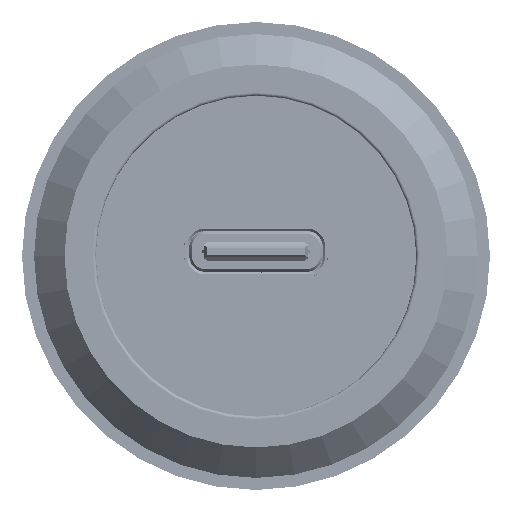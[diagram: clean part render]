
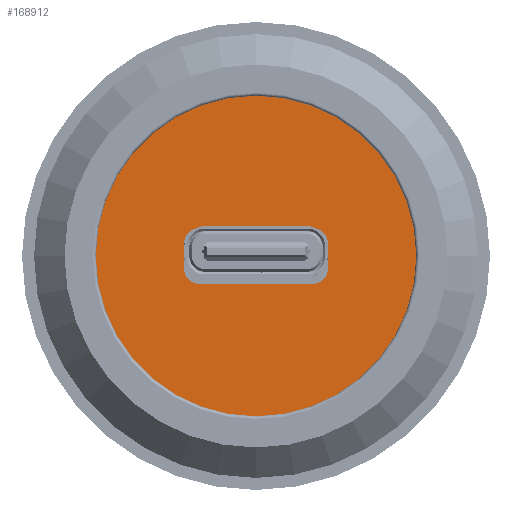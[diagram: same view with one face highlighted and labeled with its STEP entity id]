
A CAD part, front view. The second image highlights one B-rep face of the part: STEP entity #168912.
In plain terms, the highlighted planar face has unit normal (0, -1, 0).
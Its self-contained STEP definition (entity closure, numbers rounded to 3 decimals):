
#168721 = VERTEX_POINT('',#168722);
#168722 = CARTESIAN_POINT('',(-4.5,-6.5,0.75));
#168728 = EDGE_CURVE('',#168721,#168729,#168731,.T.);
#168729 = VERTEX_POINT('',#168730);
#168730 = CARTESIAN_POINT('',(-3.5,-6.5,1.75));
#168731 = CIRCLE('',#168732,1.);
#168732 = AXIS2_PLACEMENT_3D('',#168733,#168734,#168735);
#168733 = CARTESIAN_POINT('',(-3.5,-6.5,0.75));
#168734 = DIRECTION('',(0.,1.,-0.));
#168735 = DIRECTION('',(-1.,0.,0.));
#168754 = EDGE_CURVE('',#168729,#168755,#168757,.T.);
#168755 = VERTEX_POINT('',#168756);
#168756 = CARTESIAN_POINT('',(3.5,-6.5,1.75));
#168757 = LINE('',#168758,#168759);
#168758 = CARTESIAN_POINT('',(-2.25,-6.5,1.75));
#168759 = VECTOR('',#168760,1.);
#168760 = DIRECTION('',(1.,0.,0.));
#168777 = VERTEX_POINT('',#168778);
#168778 = CARTESIAN_POINT('',(4.5,-6.5,0.75));
#168784 = EDGE_CURVE('',#168755,#168777,#168785,.T.);
#168785 = CIRCLE('',#168786,1.);
#168786 = AXIS2_PLACEMENT_3D('',#168787,#168788,#168789);
#168787 = CARTESIAN_POINT('',(3.5,-6.5,0.75));
#168788 = DIRECTION('',(-0.,1.,0.));
#168789 = DIRECTION('',(1.,0.,0.));
#168802 = EDGE_CURVE('',#168777,#168803,#168805,.T.);
#168803 = VERTEX_POINT('',#168804);
#168804 = CARTESIAN_POINT('',(4.5,-6.5,-0.75));
#168805 = LINE('',#168806,#168807);
#168806 = CARTESIAN_POINT('',(4.5,-6.5,-0.875));
#168807 = VECTOR('',#168808,1.);
#168808 = DIRECTION('',(0.,0.,-1.));
#168826 = EDGE_CURVE('',#168803,#168827,#168829,.T.);
#168827 = VERTEX_POINT('',#168828);
#168828 = CARTESIAN_POINT('',(3.5,-6.5,-1.75));
#168829 = CIRCLE('',#168830,1.);
#168830 = AXIS2_PLACEMENT_3D('',#168831,#168832,#168833);
#168831 = CARTESIAN_POINT('',(3.5,-6.5,-0.75));
#168832 = DIRECTION('',(-0.,1.,0.));
#168833 = DIRECTION('',(1.,0.,0.));
#168852 = VERTEX_POINT('',#168853);
#168853 = CARTESIAN_POINT('',(-3.5,-6.5,-1.75));
#168859 = EDGE_CURVE('',#168852,#168827,#168860,.T.);
#168860 = LINE('',#168861,#168862);
#168861 = CARTESIAN_POINT('',(-2.25,-6.5,-1.75));
#168862 = VECTOR('',#168863,1.);
#168863 = DIRECTION('',(1.,0.,0.));
#168875 = VERTEX_POINT('',#168876);
#168876 = CARTESIAN_POINT('',(-4.5,-6.5,-0.75));
#168882 = EDGE_CURVE('',#168852,#168875,#168883,.T.);
#168883 = CIRCLE('',#168884,1.);
#168884 = AXIS2_PLACEMENT_3D('',#168885,#168886,#168887);
#168885 = CARTESIAN_POINT('',(-3.5,-6.5,-0.75));
#168886 = DIRECTION('',(0.,1.,-0.));
#168887 = DIRECTION('',(-1.,0.,0.));
#168900 = EDGE_CURVE('',#168721,#168875,#168901,.T.);
#168901 = LINE('',#168902,#168903);
#168902 = CARTESIAN_POINT('',(-4.5,-6.5,-0.875));
#168903 = VECTOR('',#168904,1.);
#168904 = DIRECTION('',(0.,0.,-1.));
#168912 = ADVANCED_FACE('',(#168913,#168924),#168934,.F.);
#168913 = FACE_BOUND('',#168914,.F.);
#168914 = EDGE_LOOP('',(#168915));
#168915 = ORIENTED_EDGE('',*,*,#168916,.T.);
#168916 = EDGE_CURVE('',#168917,#168917,#168919,.T.);
#168917 = VERTEX_POINT('',#168918);
#168918 = CARTESIAN_POINT('',(10.,-6.5,0.));
#168919 = CIRCLE('',#168920,10.);
#168920 = AXIS2_PLACEMENT_3D('',#168921,#168922,#168923);
#168921 = CARTESIAN_POINT('',(0.,-6.5,0.));
#168922 = DIRECTION('',(-0.,1.,0.));
#168923 = DIRECTION('',(1.,0.,0.));
#168924 = FACE_BOUND('',#168925,.F.);
#168925 = EDGE_LOOP('',(#168926,#168927,#168928,#168929,#168930,#168931,
    #168932,#168933));
#168926 = ORIENTED_EDGE('',*,*,#168728,.F.);
#168927 = ORIENTED_EDGE('',*,*,#168900,.T.);
#168928 = ORIENTED_EDGE('',*,*,#168882,.F.);
#168929 = ORIENTED_EDGE('',*,*,#168859,.T.);
#168930 = ORIENTED_EDGE('',*,*,#168826,.F.);
#168931 = ORIENTED_EDGE('',*,*,#168802,.F.);
#168932 = ORIENTED_EDGE('',*,*,#168784,.F.);
#168933 = ORIENTED_EDGE('',*,*,#168754,.F.);
#168934 = PLANE('',#168935);
#168935 = AXIS2_PLACEMENT_3D('',#168936,#168937,#168938);
#168936 = CARTESIAN_POINT('',(0.,-6.5,0.));
#168937 = DIRECTION('',(0.,1.,0.));
#168938 = DIRECTION('',(1.,0.,0.));
